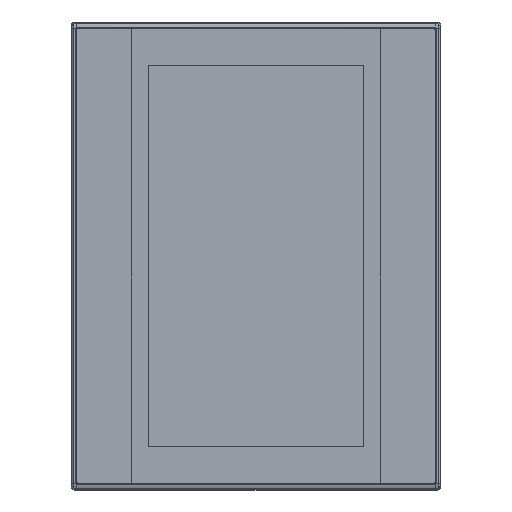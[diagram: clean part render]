
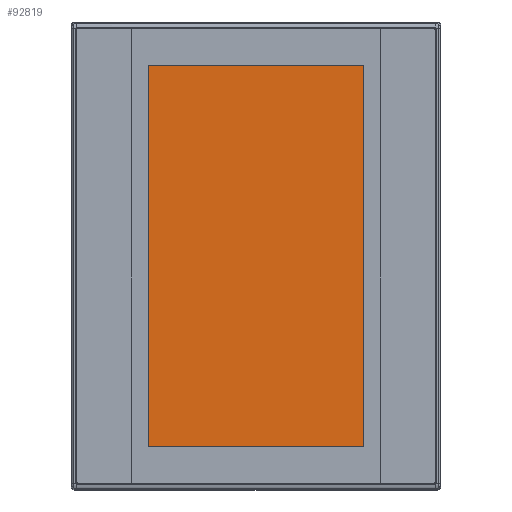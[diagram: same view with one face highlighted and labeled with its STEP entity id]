
A CAD part, top view. The second image highlights one B-rep face of the part: STEP entity #92819.
In plain terms, the highlighted planar face has unit normal (0, 0, 1).
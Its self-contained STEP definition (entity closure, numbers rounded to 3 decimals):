
#92590=CARTESIAN_POINT('',(106.,133.,5.6));
#92591=VERTEX_POINT('',#92590);
#92592=CARTESIAN_POINT('',(106.,-133.,5.6));
#92593=VERTEX_POINT('',#92592);
#92594=CARTESIAN_POINT('',(106.,133.,5.6));
#92595=DIRECTION('',(0.,-1.,0.));
#92596=VECTOR('',#92595,266.);
#92597=LINE('',#92594,#92596);
#92598=EDGE_CURVE('',#92591,#92593,#92597,.T.);
#92627=CARTESIAN_POINT('',(105.,-134.,5.6));
#92628=VERTEX_POINT('',#92627);
#92629=CARTESIAN_POINT('',(106.,-133.,5.6));
#92630=CARTESIAN_POINT('',(106.,-133.586,5.6));
#92631=CARTESIAN_POINT('',(105.586,-134.,5.6));
#92632=CARTESIAN_POINT('',(105.,-134.,5.6));
#92633=(BOUNDED_CURVE()B_SPLINE_CURVE(3,(#92629,#92630,#92631,#92632),.UNSPECIFIED.,.F.,.U.)B_SPLINE_CURVE_WITH_KNOTS((4,4),(0.,1.),.UNSPECIFIED.)CURVE()GEOMETRIC_REPRESENTATION_ITEM()RATIONAL_B_SPLINE_CURVE((1.,0.805,0.805,1.))REPRESENTATION_ITEM(''));
#92634=EDGE_CURVE('',#92593,#92628,#92633,.T.);
#92652=CARTESIAN_POINT('',(-105.,-134.,5.6));
#92653=VERTEX_POINT('',#92652);
#92654=CARTESIAN_POINT('',(105.,-134.,5.6));
#92655=DIRECTION('',(-1.,0.,0.));
#92656=VECTOR('',#92655,210.);
#92657=LINE('',#92654,#92656);
#92658=EDGE_CURVE('',#92628,#92653,#92657,.T.);
#92681=CARTESIAN_POINT('',(-106.,-133.,5.6));
#92682=VERTEX_POINT('',#92681);
#92683=CARTESIAN_POINT('',(-105.,-134.,5.6));
#92684=CARTESIAN_POINT('',(-105.586,-134.,5.6));
#92685=CARTESIAN_POINT('',(-106.,-133.586,5.6));
#92686=CARTESIAN_POINT('',(-106.,-133.,5.6));
#92687=(BOUNDED_CURVE()B_SPLINE_CURVE(3,(#92683,#92684,#92685,#92686),.UNSPECIFIED.,.F.,.U.)B_SPLINE_CURVE_WITH_KNOTS((4,4),(0.,1.),.UNSPECIFIED.)CURVE()GEOMETRIC_REPRESENTATION_ITEM()RATIONAL_B_SPLINE_CURVE((1.,0.805,0.805,1.))REPRESENTATION_ITEM(''));
#92688=EDGE_CURVE('',#92653,#92682,#92687,.T.);
#92708=CARTESIAN_POINT('',(-106.,133.,5.6));
#92709=VERTEX_POINT('',#92708);
#92710=CARTESIAN_POINT('',(-106.,-133.,5.6));
#92711=DIRECTION('',(0.,1.,0.));
#92712=VECTOR('',#92711,266.);
#92713=LINE('',#92710,#92712);
#92714=EDGE_CURVE('',#92682,#92709,#92713,.T.);
#92736=CARTESIAN_POINT('',(-105.,134.,5.6));
#92737=VERTEX_POINT('',#92736);
#92738=CARTESIAN_POINT('',(-106.,133.,5.6));
#92739=CARTESIAN_POINT('',(-106.,133.586,5.6));
#92740=CARTESIAN_POINT('',(-105.586,134.,5.6));
#92741=CARTESIAN_POINT('',(-105.,134.,5.6));
#92742=(BOUNDED_CURVE()B_SPLINE_CURVE(3,(#92738,#92739,#92740,#92741),.UNSPECIFIED.,.F.,.U.)B_SPLINE_CURVE_WITH_KNOTS((4,4),(0.,1.),.UNSPECIFIED.)CURVE()GEOMETRIC_REPRESENTATION_ITEM()RATIONAL_B_SPLINE_CURVE((1.,0.805,0.805,1.))REPRESENTATION_ITEM(''));
#92743=EDGE_CURVE('',#92709,#92737,#92742,.T.);
#92762=CARTESIAN_POINT('',(105.,134.,5.6));
#92763=VERTEX_POINT('',#92762);
#92773=CARTESIAN_POINT('',(-105.,134.,5.6));
#92774=DIRECTION('',(1.,0.,0.));
#92775=VECTOR('',#92774,210.);
#92776=LINE('',#92773,#92775);
#92777=EDGE_CURVE('',#92737,#92763,#92776,.T.);
#92791=CARTESIAN_POINT('',(105.,134.,5.6));
#92792=CARTESIAN_POINT('',(105.586,134.,5.6));
#92793=CARTESIAN_POINT('',(106.,133.586,5.6));
#92794=CARTESIAN_POINT('',(106.,133.,5.6));
#92795=(BOUNDED_CURVE()B_SPLINE_CURVE(3,(#92791,#92792,#92793,#92794),.UNSPECIFIED.,.F.,.U.)B_SPLINE_CURVE_WITH_KNOTS((4,4),(0.,1.),.UNSPECIFIED.)CURVE()GEOMETRIC_REPRESENTATION_ITEM()RATIONAL_B_SPLINE_CURVE((1.,0.805,0.805,1.))REPRESENTATION_ITEM(''));
#92796=EDGE_CURVE('',#92763,#92591,#92795,.T.);
#92804=CARTESIAN_POINT('',(74.713,-131.857,5.6));
#92805=DIRECTION('',(0.,-1.,0.));
#92806=DIRECTION('',(-0.,0.,1.));
#92807=AXIS2_PLACEMENT_3D('',#92804,#92806,#92805);
#92808=PLANE('',#92807);
#92809=ORIENTED_EDGE('',*,*,#92688,.F.);
#92810=ORIENTED_EDGE('',*,*,#92658,.F.);
#92811=ORIENTED_EDGE('',*,*,#92634,.F.);
#92812=ORIENTED_EDGE('',*,*,#92598,.F.);
#92813=ORIENTED_EDGE('',*,*,#92796,.F.);
#92814=ORIENTED_EDGE('',*,*,#92777,.F.);
#92815=ORIENTED_EDGE('',*,*,#92743,.F.);
#92816=ORIENTED_EDGE('',*,*,#92714,.F.);
#92817=EDGE_LOOP('',(#92809,#92810,#92811,#92812,#92813,#92814,#92815,#92816));
#92818=FACE_OUTER_BOUND('',#92817,.T.);
#92819=ADVANCED_FACE('',(#92818),#92808,.T.);
